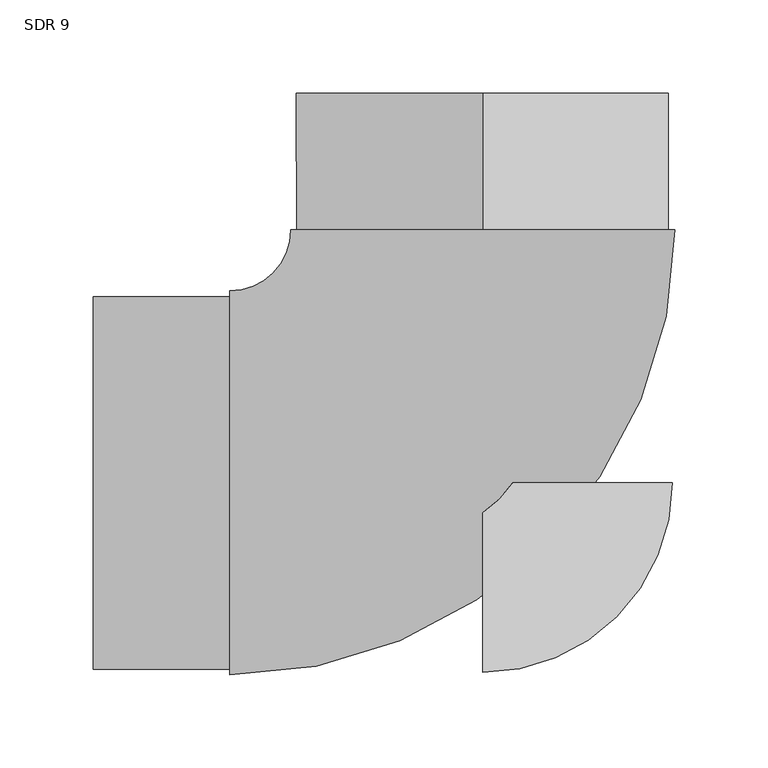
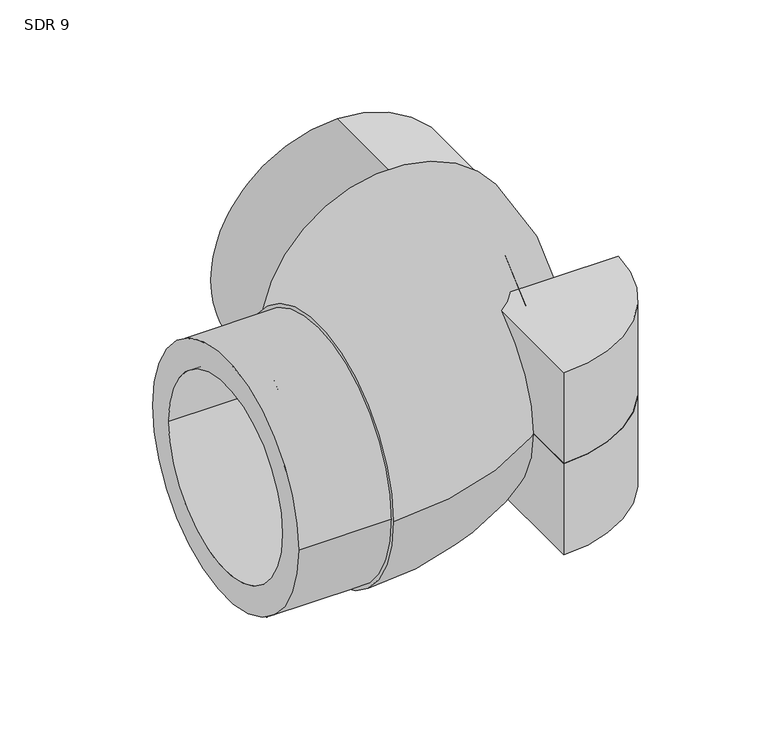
"""IFC4 building model written with IfcOpenShell, lengths in millimetres: pipe fitting geometry, Aquatherm - Elbow BW Molded : SDR 9."""

from ifc_helpers import new_model, si_unit, point, frame, frame_2d, origin, origin_with_axes, origin_2d, place, context, project, spatial, polyline, circle_curve, ellipse_curve, trimmed, segment, composite_curve, outline, extrude, source, transform, mapped, element, save
from ifc_brep_helpers import plane_surface, revolved_surface, advanced_brep


def sdr_9_2cd7b823(model_context):
    return source(origin(), model_context, "Body", "SolidModel", [
        extrude(outline(composite_curve([segment(polyline([(0.0, -101.6), (0.0, 0.0), (101.5999995, 0.0100018)]), True, "CONTINUOUS"), segment(trimmed(circle_curve(origin_2d(), 101.6), [point((101.5999995, 0.0100018))], [point((0.0, -101.6))], False, "CARTESIAN"), True, "CONTINUOUS")], self_intersect=False)), frame((0.0, 0.0, -76.2), z_axis=(0.0, 0.0, 1.0), x_axis=(1.0, 0.0, 0.0)), (0.0, 0.0, 1.0), 76.2),
        extrude(outline(composite_curve([segment(trimmed(circle_curve(origin_2d(), 101.6), [point((101.5999995, 0.0100018))], [point((0.0, -101.6))], False, "CARTESIAN"), True, "CONTINUOUS"), segment(polyline([(0.0, -101.6), (0.0, 0.0), (101.5999995, 0.0100018)]), True, "CONTINUOUS")], self_intersect=False)), origin_with_axes(), (0.0, 0.0, 1.0), 76.2),
        extrude(outline(composite_curve([segment(trimmed(circle_curve(frame_2d((0.0, -99.949)), 99.949), [point((0.0, -199.898))], [point((0.0, 0.0))], False, "CARTESIAN"), True, "CONTINUOUS"), segment(trimmed(circle_curve(frame_2d((0.0, -99.949)), 99.949), [point((0.0, 0.0))], [point((0.0, -199.898))], False, "CARTESIAN"), True, "CONTINUOUS")], self_intersect=False), holes=[composite_curve([segment(trimmed(circle_curve(frame_2d((0.0, -99.949)), 77.7381111), [point((0.0, -177.6871111))], [point((0.0, -22.2108889))], True, "CARTESIAN"), True, "CONTINUOUS"), segment(trimmed(circle_curve(frame_2d((0.0, -99.949)), 77.7381111), [point((0.0, -22.2108889))], [point((0.0, -177.6871111))], True, "CARTESIAN"), True, "CONTINUOUS")], self_intersect=False)]), frame((-0.0133761, 135.8772993, 99.949), z_axis=(-9.844258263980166e-05, 0.999999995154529, 0.0), x_axis=(-0.999999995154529, -9.844258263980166e-05, 0.0)), (0.0, 0.0, 1.0), 73.1647),
        extrude(outline(composite_curve([segment(trimmed(circle_curve(frame_2d((-0.1496481, 0.0)), 99.949), [point((99.7993519, 0.0))], [point((-100.0986481, 0.0))], False, "CARTESIAN"), True, "CONTINUOUS"), segment(trimmed(circle_curve(frame_2d((-0.1496481, 0.0)), 99.949), [point((-100.0986481, 0.0))], [point((99.7993519, 0.0))], False, "CARTESIAN"), True, "CONTINUOUS")], self_intersect=False), holes=[composite_curve([segment(trimmed(circle_curve(origin_2d(), 77.7381111), [point((77.7381111, 0.0))], [point((-77.7381111, 0.0))], True, "CARTESIAN"), True, "CONTINUOUS"), segment(trimmed(circle_curve(origin_2d(), 77.7381111), [point((-77.7381111, 0.0))], [point((77.7381111, 0.0))], True, "CARTESIAN"), True, "CONTINUOUS")], self_intersect=False)]), frame((-209.042, 0.0, 0.0), z_axis=(1.0, 0.0, 0.0), x_axis=(0.0, 1.0, 0.0)), (0.0, 0.0, 1.0), 73.1647),
        advanced_brep(
        [(-135.8773, -102.94747, 0.0), (-135.8773, 102.94747, 0.0), (-135.8773, -77.7381111, 0.0), (-135.8773, 77.7381111, 0.0), (102.9340934, 135.8874338, 0.0), (-102.9608456, 135.8671649, 0.0), (77.7247346, 135.8849521, 0.0), (-77.7514868, 135.8696466, 0.0)],
        [
            (0, 1, circle_curve(frame((-135.8773, 0.0, 0.0), z_axis=(-1.0, 0.0, 0.0), x_axis=(0.0, 1.0, 0.0)), 102.94747)),
            (1, 0, circle_curve(frame((-135.8773, 0.0, 0.0), z_axis=(-1.0, 0.0, 0.0), x_axis=(0.0, 1.0, 0.0)), 102.94747)),
            (2, 3, circle_curve(frame((-135.8773, 0.0, 0.0), z_axis=(1.0, 0.0, 0.0), x_axis=(0.0, 1.0, 0.0)), 77.7381111)),
            (3, 2, circle_curve(frame((-135.8773, 0.0, 0.0), z_axis=(1.0, 0.0, 0.0), x_axis=(0.0, 1.0, 0.0)), 77.7381111)),
            (4, 5, circle_curve(frame((-0.0133761, 135.8772993, 0.0), z_axis=(-9.844258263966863e-05, 0.999999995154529, 0.0), x_axis=(-0.999999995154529, -9.844258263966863e-05, 0.0)), 102.94747)),
            (5, 4, circle_curve(frame((-0.0133761, 135.8772993, 0.0), z_axis=(-9.844258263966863e-05, 0.999999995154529, 0.0), x_axis=(-0.999999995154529, -9.844258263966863e-05, 0.0)), 102.94747)),
            (6, 7, circle_curve(frame((-0.0133761, 135.8772993, 0.0), z_axis=(9.844258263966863e-05, -0.999999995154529, 0.0), x_axis=(-0.999999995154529, -9.844258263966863e-05, 0.0)), 77.7381111)),
            (7, 6, circle_curve(frame((-0.0133761, 135.8772993, 0.0), z_axis=(9.844258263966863e-05, -0.999999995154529, 0.0), x_axis=(-0.999999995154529, -9.844258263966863e-05, 0.0)), 77.7381111)),
            (5, 1, circle_curve(frame((-135.8773, 135.8639245, 0.0), z_axis=(0.0, 0.0, -1.0), x_axis=(0.0, -1.0, 0.0)), 32.9164545)),
            (0, 4, circle_curve(frame((-135.8773, 135.8639245, 0.0), z_axis=(0.0, 0.0, 1.0), x_axis=(0.0, -1.0, 0.0)), 238.8113945)),
            (7, 3, circle_curve(frame((-135.8773, 135.8639245, 0.0), z_axis=(0.0, 0.0, -1.0), x_axis=(0.0, -1.0, 0.0)), 58.1258134)),
            (2, 6, circle_curve(frame((-135.8773, 135.8639245, 0.0), z_axis=(0.0, 0.0, 1.0), x_axis=(0.0, -1.0, 0.0)), 213.6020357)),
        ],
        [
            plane_surface(frame((-135.8773, 0.0, 0.0), z_axis=(-1.0, 0.0, 0.0), x_axis=(0.0, 0.0, 1.0))),
            plane_surface(frame((-0.0133761, 135.8772993, 0.0), z_axis=(-9.844258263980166e-05, 0.999999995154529, 0.0), x_axis=(0.0, 0.0, 1.0))),
            revolved_surface(trimmed(ellipse_curve(frame((-135.8773, 0.0, 0.0), z_axis=(-1.0, 0.0, 0.0), x_axis=(0.0, 1.0, 0.0)), 102.94747, 102.94747), [point((-135.8773, -102.94747, 0.0))], [point((-135.8773, 102.94747, 0.0))], True, "CARTESIAN"), (-135.8773, 135.8639245, 0.0), (0.0, 0.0, 1.0)),
            revolved_surface(trimmed(ellipse_curve(frame((-135.8773, 0.0, 0.0), z_axis=(-1.0, 0.0, 0.0), x_axis=(0.0, 1.0, 0.0)), 102.94747, 102.94747), [point((-135.8773, 102.94747, 0.0))], [point((-135.8773, -102.94747, 0.0))], True, "CARTESIAN"), (-135.8773, 135.8639245, 0.0), (0.0, 0.0, 1.0)),
            revolved_surface(trimmed(ellipse_curve(frame((-135.8773, 0.0, 0.0), z_axis=(1.0, 0.0, 0.0), x_axis=(0.0, 1.0, 0.0)), 77.7381111, 77.7381111), [point((-135.8773, -77.7381111, 0.0))], [point((-135.8773, 77.7381111, 0.0))], True, "CARTESIAN"), (-135.8773, 135.8639245, 0.0), (0.0, 0.0, 1.0)),
            revolved_surface(trimmed(ellipse_curve(frame((-135.8773, 0.0, 0.0), z_axis=(1.0, 0.0, 0.0), x_axis=(0.0, 1.0, 0.0)), 77.7381111, 77.7381111), [point((-135.8773, 77.7381111, 0.0))], [point((-135.8773, -77.7381111, 0.0))], True, "CARTESIAN"), (-135.8773, 135.8639245, 0.0), (0.0, 0.0, 1.0)),
        ],
        [
            (0, [[1, 2], [3, 4]]),
            (1, [[5, 6], [7, 8]]),
            (2, [[9, -1, 10, -6]]),
            (3, [[-10, -2, -9, -5]]),
            (4, [[11, -3, 12, -8]]),
            (5, [[-12, -4, -11, -7]]),
        ],
    ),
    ])


if __name__ == "__main__":
    model = new_model("IFC4")
    model_context = context("Model", 3, world=origin())
    ifc_project = project(units=[si_unit("LENGTHUNIT", "METRE", prefix="MILLI")], contexts=[model_context])
    site = spatial("IfcSite", under=ifc_project)
    building = spatial("IfcBuilding", under=site)
    placement = place(None, origin())
    sdr_9_shape = sdr_9_2cd7b823(model_context)
    element("IfcPipeFitting", 1, ObjectType="Aquatherm - Elbow BW Molded : SDR 9", at=placement, inside=building, context=model_context, shape_type="MappedRepresentation", body=[
        mapped(sdr_9_shape, transform((0.0, 0.0, 0.0), x_axis=(1.0, 0.0, 0.0), y_axis=(0.0, 1.0, 0.0), z_axis=(0.0, 0.0, 1.0))),
    ])
    save(model, "model.ifc")
